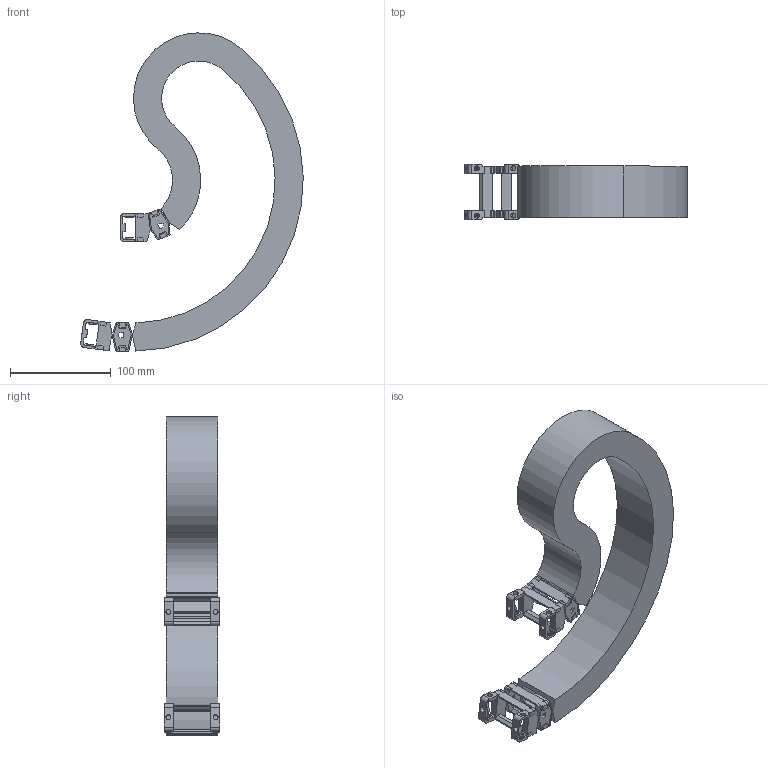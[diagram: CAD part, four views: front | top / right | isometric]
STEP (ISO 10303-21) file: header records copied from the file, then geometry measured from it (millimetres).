
FILE_DESCRIPTION( ( 'STEP AP214' ), '1' );
FILE_NAME( 'e:/temp/worker_37/temp/exporttempdir_5820_109_RptdT/format_1/RV020CRA51574030130150-0037893.2245.stp', '2021-07-23T16:17:25', ( 'License CC BY-ND 4.0' ), ( 'CADENAS' ), ' ', 'PARTsolutions', ' ' );
FILE_SCHEMA( ( 'AUTOMOTIVE_DESIGN { 1 0 10303 214 1 1 1 1 }' ) );
Length unit declared in the file: millimetre
Products named in the file (4): RV020CRA51574030130150-0037893.2245; _RV020CRA51574030130150-0037563.52-Chain; _RV020CR-20-37; _RV 020CR_FB-51
Assembly tree (5 placements, depth 2):
  RV020CRA51574030130150-0037893.2245
    _RV020CRA51574030130150-0037563.52-Chain
    _RV020CR-20-37  x2
    _RV 020CR_FB-51  x2
Bounding box: 221.3 x 55 x 316.56 mm (x, y, z)
Volume: 472698.9 mm3; surface area: 198254.2 mm2
Topology: 5 solids, 5 shells, 600 faces, 1724 edges, 1124 vertices
Faces by surface type: plane 480, cylinder 120
Full cylindrical faces by diameter (mm): 5 x12
Entity records: 12586 total; most frequent: CARTESIAN_POINT 1776, ORIENTED_EDGE 1764, DIRECTION 1656, EDGE_CURVE 882, LINE 740, VECTOR 740, VERTEX_POINT 578, AXIS2_PLACEMENT_3D 458
